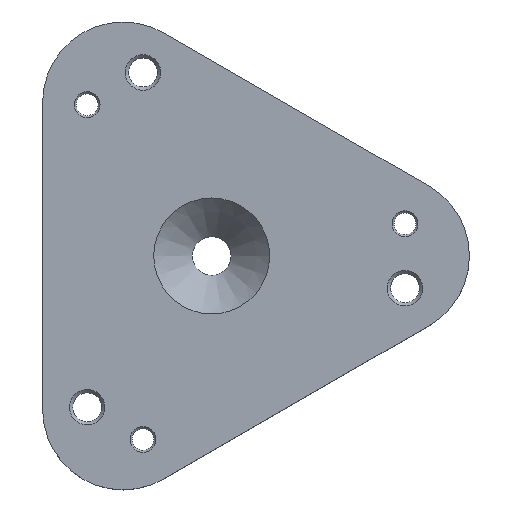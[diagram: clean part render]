
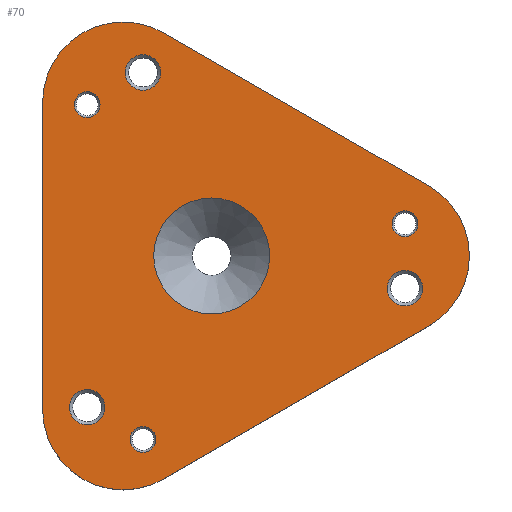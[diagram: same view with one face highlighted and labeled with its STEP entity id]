
A CAD part, top view. The second image highlights one B-rep face of the part: STEP entity #70.
In plain terms, the highlighted planar face has unit normal (0, 0, 1).
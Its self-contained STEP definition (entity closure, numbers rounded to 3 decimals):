
#70=ADVANCED_FACE('',(#103,#104,#105,#106,#107,#108,#109,#110),#98,.T.);
#98=PLANE('',#503);
#103=FACE_BOUND('',#159,.T.);
#104=FACE_BOUND('',#160,.T.);
#105=FACE_BOUND('',#161,.T.);
#106=FACE_BOUND('',#162,.T.);
#107=FACE_BOUND('',#163,.T.);
#108=FACE_BOUND('',#164,.T.);
#109=FACE_BOUND('',#165,.T.);
#110=FACE_BOUND('',#166,.T.);
#159=EDGE_LOOP('',(#221,#222,#223,#224,#225,#226));
#160=EDGE_LOOP('',(#227));
#161=EDGE_LOOP('',(#228));
#162=EDGE_LOOP('',(#229));
#163=EDGE_LOOP('',(#230));
#164=EDGE_LOOP('',(#231));
#165=EDGE_LOOP('',(#232));
#166=EDGE_LOOP('',(#233));
#221=ORIENTED_EDGE('',*,*,#350,.T.);
#222=ORIENTED_EDGE('',*,*,#351,.T.);
#223=ORIENTED_EDGE('',*,*,#352,.T.);
#224=ORIENTED_EDGE('',*,*,#353,.T.);
#225=ORIENTED_EDGE('',*,*,#354,.T.);
#226=ORIENTED_EDGE('',*,*,#355,.T.);
#227=ORIENTED_EDGE('',*,*,#356,.T.);
#228=ORIENTED_EDGE('',*,*,#357,.F.);
#229=ORIENTED_EDGE('',*,*,#358,.T.);
#230=ORIENTED_EDGE('',*,*,#359,.F.);
#231=ORIENTED_EDGE('',*,*,#360,.T.);
#232=ORIENTED_EDGE('',*,*,#361,.F.);
#233=ORIENTED_EDGE('',*,*,#362,.T.);
#311=VERTEX_POINT('',#710);
#312=VERTEX_POINT('',#711);
#313=VERTEX_POINT('',#713);
#314=VERTEX_POINT('',#715);
#315=VERTEX_POINT('',#717);
#316=VERTEX_POINT('',#719);
#317=VERTEX_POINT('',#722);
#318=VERTEX_POINT('',#724);
#319=VERTEX_POINT('',#726);
#320=VERTEX_POINT('',#728);
#321=VERTEX_POINT('',#730);
#322=VERTEX_POINT('',#732);
#323=VERTEX_POINT('',#734);
#350=EDGE_CURVE('',#311,#312,#395,.T.);
#351=EDGE_CURVE('',#312,#313,#453,.T.);
#352=EDGE_CURVE('',#313,#314,#396,.T.);
#353=EDGE_CURVE('',#314,#315,#454,.T.);
#354=EDGE_CURVE('',#315,#316,#397,.T.);
#355=EDGE_CURVE('',#316,#311,#455,.T.);
#356=EDGE_CURVE('',#317,#317,#456,.T.);
#357=EDGE_CURVE('',#318,#318,#457,.T.);
#358=EDGE_CURVE('',#319,#319,#458,.T.);
#359=EDGE_CURVE('',#320,#320,#459,.T.);
#360=EDGE_CURVE('',#321,#321,#460,.T.);
#361=EDGE_CURVE('',#322,#322,#461,.T.);
#362=EDGE_CURVE('',#323,#323,#462,.T.);
#395=LINE('',#709,#407);
#396=LINE('',#714,#408);
#397=LINE('',#718,#409);
#407=VECTOR('',#568,1.);
#408=VECTOR('',#571,1.);
#409=VECTOR('',#574,1.);
#453=CIRCLE('',#493,25.);
#454=CIRCLE('',#494,25.);
#455=CIRCLE('',#495,25.);
#456=CIRCLE('',#496,5.5);
#457=CIRCLE('',#497,4.);
#458=CIRCLE('',#498,5.5);
#459=CIRCLE('',#499,4.);
#460=CIRCLE('',#500,5.5);
#461=CIRCLE('',#501,4.);
#462=CIRCLE('',#502,18.);
#493=AXIS2_PLACEMENT_3D('',#712,#569,#570);
#494=AXIS2_PLACEMENT_3D('',#716,#572,#573);
#495=AXIS2_PLACEMENT_3D('',#720,#575,#576);
#496=AXIS2_PLACEMENT_3D('',#721,#577,#578);
#497=AXIS2_PLACEMENT_3D('',#723,#579,#580);
#498=AXIS2_PLACEMENT_3D('',#725,#581,#582);
#499=AXIS2_PLACEMENT_3D('',#727,#583,#584);
#500=AXIS2_PLACEMENT_3D('',#729,#585,#586);
#501=AXIS2_PLACEMENT_3D('',#731,#587,#588);
#502=AXIS2_PLACEMENT_3D('',#733,#589,#590);
#503=AXIS2_PLACEMENT_3D('',#735,#591,#592);
#568=DIRECTION('',(0.866,0.5,0.));
#569=DIRECTION('',(0.,0.,1.));
#570=DIRECTION('',(1.,0.,0.));
#571=DIRECTION('',(-0.866,0.5,0.));
#572=DIRECTION('',(0.,0.,1.));
#573=DIRECTION('',(1.,0.,0.));
#574=DIRECTION('',(0.,-1.,0.));
#575=DIRECTION('',(0.,0.,1.));
#576=DIRECTION('',(1.,0.,0.));
#577=DIRECTION('',(0.,0.,-1.));
#578=DIRECTION('',(1.,0.,0.));
#579=DIRECTION('',(0.,0.,1.));
#580=DIRECTION('',(1.,0.,0.));
#581=DIRECTION('',(0.,0.,-1.));
#582=DIRECTION('',(1.,0.,0.));
#583=DIRECTION('',(0.,0.,1.));
#584=DIRECTION('',(1.,0.,0.));
#585=DIRECTION('',(0.,0.,-1.));
#586=DIRECTION('',(1.,0.,0.));
#587=DIRECTION('',(0.,0.,1.));
#588=DIRECTION('',(1.,0.,0.));
#589=DIRECTION('',(0.,0.,-1.));
#590=DIRECTION('',(1.,0.,0.));
#591=DIRECTION('',(0.,0.,1.));
#592=DIRECTION('',(1.,0.,0.));
#709=CARTESIAN_POINT('',(-52.5,-90.933,20.));
#710=CARTESIAN_POINT('',(-15.,-69.282,20.));
#711=CARTESIAN_POINT('',(67.5,-21.651,20.));
#712=CARTESIAN_POINT('',(55.,0.,20.));
#713=CARTESIAN_POINT('',(67.5,21.651,20.));
#714=CARTESIAN_POINT('',(105.,0.,20.));
#715=CARTESIAN_POINT('',(-15.,69.282,20.));
#716=CARTESIAN_POINT('',(-27.5,47.631,20.));
#717=CARTESIAN_POINT('',(-52.5,47.631,20.));
#718=CARTESIAN_POINT('',(-52.5,90.933,20.));
#719=CARTESIAN_POINT('',(-52.5,-47.631,20.));
#720=CARTESIAN_POINT('',(-27.5,-47.631,20.));
#721=CARTESIAN_POINT('',(-21.34,56.962,20.));
#722=CARTESIAN_POINT('',(-15.84,56.962,20.));
#723=CARTESIAN_POINT('',(-38.66,46.962,20.));
#724=CARTESIAN_POINT('',(-34.66,46.962,20.));
#725=CARTESIAN_POINT('',(60.,-10.,20.));
#726=CARTESIAN_POINT('',(65.5,-10.,20.));
#727=CARTESIAN_POINT('',(60.,10.,20.));
#728=CARTESIAN_POINT('',(64.,10.,20.));
#729=CARTESIAN_POINT('',(-38.66,-46.962,20.));
#730=CARTESIAN_POINT('',(-33.16,-46.962,20.));
#731=CARTESIAN_POINT('',(-21.34,-56.962,20.));
#732=CARTESIAN_POINT('',(-17.34,-56.962,20.));
#733=CARTESIAN_POINT('',(0.,0.,20.));
#734=CARTESIAN_POINT('',(18.,0.,20.));
#735=CARTESIAN_POINT('',(0.,0.,20.));
